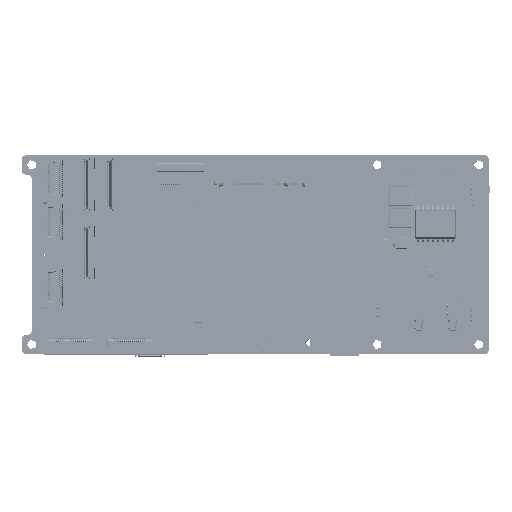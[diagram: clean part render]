
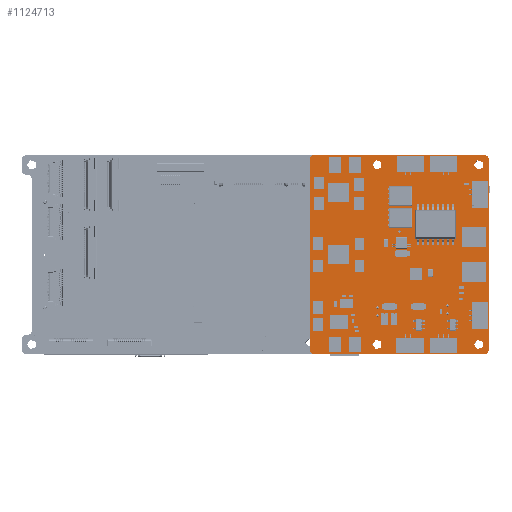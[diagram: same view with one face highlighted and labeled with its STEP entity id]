
A CAD part, top view. The second image highlights one B-rep face of the part: STEP entity #1124713.
In plain terms, the highlighted planar face has unit normal (0, 0, 1).
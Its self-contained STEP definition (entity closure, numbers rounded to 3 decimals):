
#19289=FACE_BOUND('',#173790,.T.);
#19290=FACE_BOUND('',#173791,.T.);
#19291=FACE_BOUND('',#173792,.T.);
#19292=FACE_BOUND('',#173793,.T.);
#19293=FACE_BOUND('',#173794,.T.);
#19294=FACE_BOUND('',#173795,.T.);
#19295=FACE_BOUND('',#173796,.T.);
#19296=FACE_BOUND('',#173797,.T.);
#19297=FACE_BOUND('',#173798,.T.);
#19298=FACE_BOUND('',#173799,.T.);
#56927=PLANE('',#1210596);
#112920=FACE_OUTER_BOUND('',#173789,.T.);
#173789=EDGE_LOOP('',(#1005389,#1005390,#1005391,#1005392,#1005393,#1005394,
#1005395,#1005396));
#173790=EDGE_LOOP('',(#1005397));
#173791=EDGE_LOOP('',(#1005398));
#173792=EDGE_LOOP('',(#1005399));
#173793=EDGE_LOOP('',(#1005400));
#173794=EDGE_LOOP('',(#1005401));
#173795=EDGE_LOOP('',(#1005402));
#173796=EDGE_LOOP('',(#1005403));
#173797=EDGE_LOOP('',(#1005404));
#173798=EDGE_LOOP('',(#1005405));
#173799=EDGE_LOOP('',(#1005406));
#203738=CIRCLE('',#1210550,1.);
#203740=CIRCLE('',#1210554,1.);
#203742=CIRCLE('',#1210558,1.);
#203744=CIRCLE('',#1210562,1.);
#203746=CIRCLE('',#1210566,0.4);
#203748=CIRCLE('',#1210569,1.25);
#203750=CIRCLE('',#1210572,0.4);
#203752=CIRCLE('',#1210575,0.35);
#203754=CIRCLE('',#1210578,1.25);
#203756=CIRCLE('',#1210581,0.4);
#203758=CIRCLE('',#1210584,1.25);
#203760=CIRCLE('',#1210587,0.35);
#203762=CIRCLE('',#1210590,0.4);
#203764=CIRCLE('',#1210593,1.25);
#317578=LINE('',#1822494,#453384);
#317582=LINE('',#1822506,#453388);
#317586=LINE('',#1822518,#453392);
#317590=LINE('',#1822529,#453396);
#453384=VECTOR('',#1468049,1.);
#453388=VECTOR('',#1468061,1.);
#453392=VECTOR('',#1468073,1.);
#453396=VECTOR('',#1468085,1.);
#564400=VERTEX_POINT('',#1822485);
#564401=VERTEX_POINT('',#1822487);
#564403=VERTEX_POINT('',#1822493);
#564405=VERTEX_POINT('',#1822499);
#564407=VERTEX_POINT('',#1822505);
#564409=VERTEX_POINT('',#1822511);
#564411=VERTEX_POINT('',#1822517);
#564413=VERTEX_POINT('',#1822523);
#564415=VERTEX_POINT('',#1822532);
#564417=VERTEX_POINT('',#1822538);
#564419=VERTEX_POINT('',#1822544);
#564421=VERTEX_POINT('',#1822550);
#564423=VERTEX_POINT('',#1822556);
#564425=VERTEX_POINT('',#1822562);
#564427=VERTEX_POINT('',#1822568);
#564429=VERTEX_POINT('',#1822574);
#564431=VERTEX_POINT('',#1822580);
#564433=VERTEX_POINT('',#1822586);
#714539=EDGE_CURVE('',#564400,#564401,#203738,.T.);
#714542=EDGE_CURVE('',#564401,#564403,#317578,.T.);
#714545=EDGE_CURVE('',#564403,#564405,#203740,.T.);
#714548=EDGE_CURVE('',#564405,#564407,#317582,.T.);
#714551=EDGE_CURVE('',#564407,#564409,#203742,.T.);
#714554=EDGE_CURVE('',#564409,#564411,#317586,.T.);
#714557=EDGE_CURVE('',#564411,#564413,#203744,.T.);
#714560=EDGE_CURVE('',#564413,#564400,#317590,.T.);
#714562=EDGE_CURVE('',#564415,#564415,#203746,.T.);
#714565=EDGE_CURVE('',#564417,#564417,#203748,.T.);
#714568=EDGE_CURVE('',#564419,#564419,#203750,.T.);
#714571=EDGE_CURVE('',#564421,#564421,#203752,.T.);
#714574=EDGE_CURVE('',#564423,#564423,#203754,.T.);
#714577=EDGE_CURVE('',#564425,#564425,#203756,.T.);
#714580=EDGE_CURVE('',#564427,#564427,#203758,.T.);
#714583=EDGE_CURVE('',#564429,#564429,#203760,.T.);
#714586=EDGE_CURVE('',#564431,#564431,#203762,.T.);
#714589=EDGE_CURVE('',#564433,#564433,#203764,.T.);
#1005389=ORIENTED_EDGE('',*,*,#714539,.F.);
#1005390=ORIENTED_EDGE('',*,*,#714560,.F.);
#1005391=ORIENTED_EDGE('',*,*,#714557,.F.);
#1005392=ORIENTED_EDGE('',*,*,#714554,.F.);
#1005393=ORIENTED_EDGE('',*,*,#714551,.F.);
#1005394=ORIENTED_EDGE('',*,*,#714548,.F.);
#1005395=ORIENTED_EDGE('',*,*,#714545,.F.);
#1005396=ORIENTED_EDGE('',*,*,#714542,.F.);
#1005397=ORIENTED_EDGE('',*,*,#714562,.F.);
#1005398=ORIENTED_EDGE('',*,*,#714565,.F.);
#1005399=ORIENTED_EDGE('',*,*,#714568,.F.);
#1005400=ORIENTED_EDGE('',*,*,#714571,.F.);
#1005401=ORIENTED_EDGE('',*,*,#714574,.F.);
#1005402=ORIENTED_EDGE('',*,*,#714577,.F.);
#1005403=ORIENTED_EDGE('',*,*,#714580,.F.);
#1005404=ORIENTED_EDGE('',*,*,#714583,.F.);
#1005405=ORIENTED_EDGE('',*,*,#714586,.F.);
#1005406=ORIENTED_EDGE('',*,*,#714589,.F.);
#1124713=ADVANCED_FACE('',(#112920,#19289,#19290,#19291,#19292,#19293,#19294,
#19295,#19296,#19297,#19298),#56927,.F.);
#1210550=AXIS2_PLACEMENT_3D('',#1822488,#1468042,#1468043);
#1210554=AXIS2_PLACEMENT_3D('',#1822500,#1468054,#1468055);
#1210558=AXIS2_PLACEMENT_3D('',#1822512,#1468066,#1468067);
#1210562=AXIS2_PLACEMENT_3D('',#1822524,#1468078,#1468079);
#1210566=AXIS2_PLACEMENT_3D('',#1822533,#1468089,#1468090);
#1210569=AXIS2_PLACEMENT_3D('',#1822539,#1468096,#1468097);
#1210572=AXIS2_PLACEMENT_3D('',#1822545,#1468103,#1468104);
#1210575=AXIS2_PLACEMENT_3D('',#1822551,#1468110,#1468111);
#1210578=AXIS2_PLACEMENT_3D('',#1822557,#1468117,#1468118);
#1210581=AXIS2_PLACEMENT_3D('',#1822563,#1468124,#1468125);
#1210584=AXIS2_PLACEMENT_3D('',#1822569,#1468131,#1468132);
#1210587=AXIS2_PLACEMENT_3D('',#1822575,#1468138,#1468139);
#1210590=AXIS2_PLACEMENT_3D('',#1822581,#1468145,#1468146);
#1210593=AXIS2_PLACEMENT_3D('',#1822587,#1468152,#1468153);
#1210596=AXIS2_PLACEMENT_3D('',#1822592,#1468159,#1468160);
#1468042=DIRECTION('center_axis',(0.,0.,-1.));
#1468043=DIRECTION('ref_axis',(0.,-1.,
0.));
#1468049=DIRECTION('',(0.,1.,0.));
#1468054=DIRECTION('center_axis',(0.,0.,-1.));
#1468055=DIRECTION('ref_axis',(-1.,0.,0.));
#1468061=DIRECTION('',(1.,0.,0.));
#1468066=DIRECTION('center_axis',(0.,0.,-1.));
#1468067=DIRECTION('ref_axis',(0.,1.,0.));
#1468073=DIRECTION('',(0.,-1.,0.));
#1468078=DIRECTION('center_axis',(0.,0.,-1.));
#1468079=DIRECTION('ref_axis',(1.,0.,
0.));
#1468085=DIRECTION('',(-1.,0.,0.));
#1468089=DIRECTION('center_axis',(0.,0.,1.));
#1468090=DIRECTION('ref_axis',(1.,0.,0.));
#1468096=DIRECTION('center_axis',(0.,0.,1.));
#1468097=DIRECTION('ref_axis',(1.,0.,0.));
#1468103=DIRECTION('center_axis',(0.,0.,1.));
#1468104=DIRECTION('ref_axis',(1.,0.,0.));
#1468110=DIRECTION('center_axis',(0.,0.,1.));
#1468111=DIRECTION('ref_axis',(1.,0.,0.));
#1468117=DIRECTION('center_axis',(0.,0.,1.));
#1468118=DIRECTION('ref_axis',(1.,0.,0.));
#1468124=DIRECTION('center_axis',(0.,0.,1.));
#1468125=DIRECTION('ref_axis',(1.,0.,0.));
#1468131=DIRECTION('center_axis',(0.,0.,1.));
#1468132=DIRECTION('ref_axis',(1.,0.,0.));
#1468138=DIRECTION('center_axis',(0.,0.,1.));
#1468139=DIRECTION('ref_axis',(1.,0.,0.));
#1468145=DIRECTION('center_axis',(0.,0.,1.));
#1468146=DIRECTION('ref_axis',(1.,0.,0.));
#1468152=DIRECTION('center_axis',(0.,0.,1.));
#1468153=DIRECTION('ref_axis',(1.,0.,0.));
#1468159=DIRECTION('center_axis',(0.,0.,-1.));
#1468160=DIRECTION('ref_axis',(-1.,0.,0.));
#1822485=CARTESIAN_POINT('',(1.,0.,0.));
#1822487=CARTESIAN_POINT('',(0.,1.,0.));
#1822488=CARTESIAN_POINT('Origin',(1.,1.,0.));
#1822493=CARTESIAN_POINT('',(0.,50.,0.));
#1822494=CARTESIAN_POINT('',(0.,1.,0.));
#1822499=CARTESIAN_POINT('',(1.,51.,0.));
#1822500=CARTESIAN_POINT('Origin',(1.,50.,0.));
#1822505=CARTESIAN_POINT('',(44.8,51.,0.));
#1822506=CARTESIAN_POINT('',(1.,51.,0.));
#1822511=CARTESIAN_POINT('',(45.8,50.,0.));
#1822512=CARTESIAN_POINT('Origin',(44.8,50.,0.));
#1822517=CARTESIAN_POINT('',(45.8,1.,0.));
#1822518=CARTESIAN_POINT('',(45.8,50.,0.));
#1822523=CARTESIAN_POINT('',(44.8,0.,0.));
#1822524=CARTESIAN_POINT('Origin',(44.8,1.,0.));
#1822529=CARTESIAN_POINT('',(44.8,0.,0.));
#1822532=CARTESIAN_POINT('',(16.9,10.,0.));
#1822533=CARTESIAN_POINT('Origin',(17.3,10.,0.));
#1822538=CARTESIAN_POINT('',(16.05,2.5,0.));
#1822539=CARTESIAN_POINT('Origin',(17.3,2.5,0.));
#1822544=CARTESIAN_POINT('',(16.9,12.,0.));
#1822545=CARTESIAN_POINT('Origin',(17.3,12.,0.));
#1822550=CARTESIAN_POINT('',(22.65,31.5,0.));
#1822551=CARTESIAN_POINT('Origin',(23.,31.5,0.));
#1822556=CARTESIAN_POINT('',(16.05,48.5,0.));
#1822557=CARTESIAN_POINT('Origin',(17.3,48.5,0.));
#1822562=CARTESIAN_POINT('',(34.9,10.5,0.));
#1822563=CARTESIAN_POINT('Origin',(35.3,10.5,0.));
#1822568=CARTESIAN_POINT('',(42.05,2.5,0.));
#1822569=CARTESIAN_POINT('Origin',(43.3,2.5,0.));
#1822574=CARTESIAN_POINT('',(29.25,31.5,0.));
#1822575=CARTESIAN_POINT('Origin',(29.6,31.5,0.));
#1822580=CARTESIAN_POINT('',(34.9,12.5,0.));
#1822581=CARTESIAN_POINT('Origin',(35.3,12.5,0.));
#1822586=CARTESIAN_POINT('',(42.05,48.5,0.));
#1822587=CARTESIAN_POINT('Origin',(43.3,48.5,0.));
#1822592=CARTESIAN_POINT('Origin',(22.9,25.5,0.));
